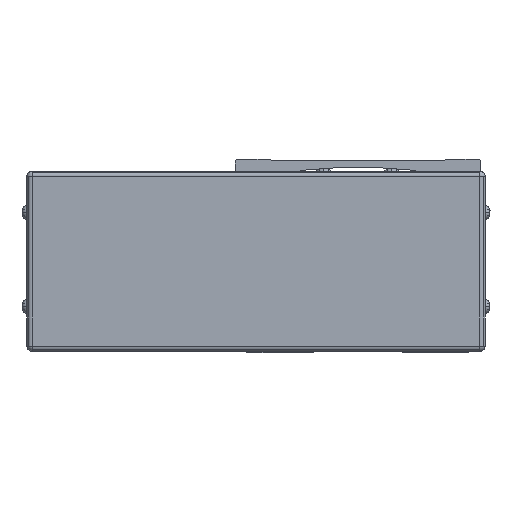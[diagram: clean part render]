
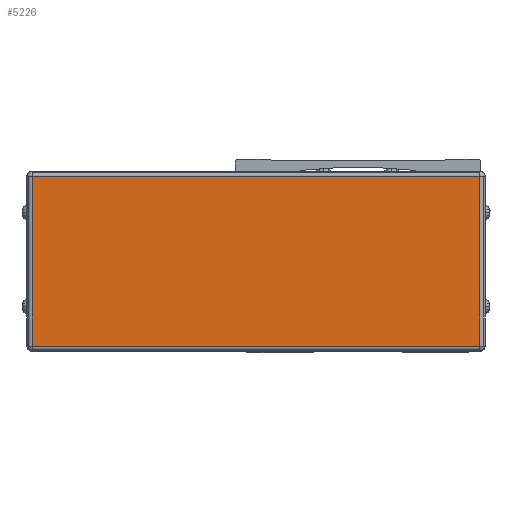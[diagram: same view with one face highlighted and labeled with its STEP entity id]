
A CAD part, front view. The second image highlights one B-rep face of the part: STEP entity #5226.
In plain terms, the highlighted planar face has unit normal (0, -1, 0).
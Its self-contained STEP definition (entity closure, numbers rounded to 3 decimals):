
#5226=ADVANCED_FACE('',(#11395),#11396,.F.);
#11395=FACE_OUTER_BOUND('',#19455,.T.);
#11396=PLANE('',#19456);
#19455=EDGE_LOOP('',(#35319,#35320,#35321,#35322));
#19456=AXIS2_PLACEMENT_3D('',#35323,#35324,#35325);
#35319=ORIENTED_EDGE('',*,*,#49650,.T.);
#35320=ORIENTED_EDGE('',*,*,#45635,.T.);
#35321=ORIENTED_EDGE('',*,*,#50533,.T.);
#35322=ORIENTED_EDGE('',*,*,#50725,.T.);
#35323=CARTESIAN_POINT('',(-39.,61.222,-42.5));
#35324=DIRECTION('',(0.0,1.0,-0.0));
#35325=DIRECTION('',(-1.0,0.0,0.0));
#45635=EDGE_CURVE('',#54772,#54770,#54773,.T.);
#49650=EDGE_CURVE('',#60735,#54772,#61188,.T.);
#50533=EDGE_CURVE('',#54770,#61428,#62403,.T.);
#50725=EDGE_CURVE('',#61428,#60735,#62642,.T.);
#54770=VERTEX_POINT('',#67856);
#54772=VERTEX_POINT('',#67858);
#54773=LINE('',#67859,#67860);
#60735=VERTEX_POINT('',#76886);
#61188=LINE('',#77496,#77497);
#61428=VERTEX_POINT('',#77822);
#62403=LINE('',#79261,#79262);
#62642=LINE('',#79625,#79626);
#67856=CARTESIAN_POINT('',(46.7,61.222,24.5));
#67858=CARTESIAN_POINT('',(46.7,61.222,-40.5));
#67859=CARTESIAN_POINT('',(46.7,61.222,-42.5));
#67860=VECTOR('',#84405,10.0);
#76886=CARTESIAN_POINT('',(-124.7,61.222,-40.5));
#77496=CARTESIAN_POINT('',(-39.,61.222,-40.5));
#77497=VECTOR('',#89223,10.0);
#77822=CARTESIAN_POINT('',(-124.7,61.222,24.5));
#79261=CARTESIAN_POINT('',(-39.,61.222,24.5));
#79262=VECTOR('',#90252,10.0);
#79625=CARTESIAN_POINT('',(-124.7,61.222,-42.5));
#79626=VECTOR('',#90470,10.0);
#84405=DIRECTION('',(0.0,0.0,1.0));
#89223=DIRECTION('',(1.0,0.0,0.0));
#90252=DIRECTION('',(-1.0,0.0,0.0));
#90470=DIRECTION('',(-0.0,0.0,-1.0));
